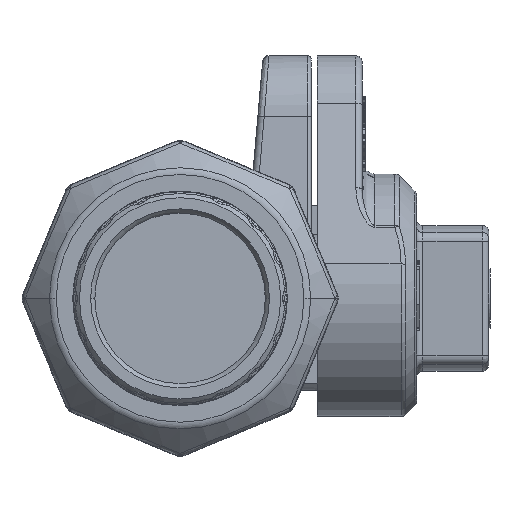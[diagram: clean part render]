
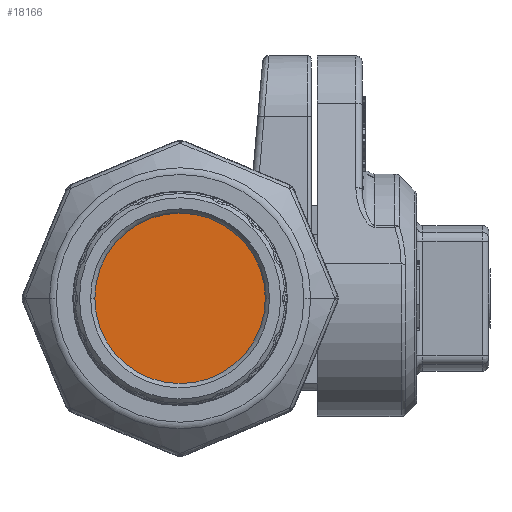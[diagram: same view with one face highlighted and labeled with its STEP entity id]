
A CAD part, left-side view. The second image highlights one B-rep face of the part: STEP entity #18166.
In plain terms, the highlighted planar face has unit normal (-1, 0, 0) as drawn and (1, 0, 0) by its records, which use the part's own axes.
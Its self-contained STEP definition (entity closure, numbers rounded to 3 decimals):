
#18109=CARTESIAN_POINT('',(31.19,0.,0.));
#18110=DIRECTION('',(1.,0.,0.));
#18111=DIRECTION('',(0.,1.,0.));
#18112=AXIS2_PLACEMENT_3D('',#18109,#18110,#18111);
#18118=CARTESIAN_POINT('',(31.19,0.,0.));
#18119=DIRECTION('',(-1.,0.,0.));
#18120=DIRECTION('',(0.,1.,0.));
#18121=AXIS2_PLACEMENT_3D('',#18118,#18119,#18120);
#18143=CARTESIAN_POINT('',(31.19,13.34,0.));
#18145=VERTEX_POINT('',#18143);
#18147=CARTESIAN_POINT('',(31.19,-13.34,0.));
#18149=VERTEX_POINT('',#18147);
#18155=CARTESIAN_POINT('',(31.19,0.,0.));
#18156=DIRECTION('',(-1.,0.,0.));
#18157=DIRECTION('',(0.,1.,0.));
#18158=AXIS2_PLACEMENT_3D('',#18155,#18156,#18157);
#18159=PLANE('',#18158);
#18161=ORIENTED_EDGE('',*,*,#18160,.F.);
#18163=ORIENTED_EDGE('',*,*,#18162,.T.);
#18164=EDGE_LOOP('',(#18161,#18163));
#18165=FACE_OUTER_BOUND('',#18164,.F.);
#18166=ADVANCED_FACE('',(#18165),#18159,.F.);
#18113=CIRCLE('',#18112,13.34);
#18122=CIRCLE('',#18121,13.34);
#18160=EDGE_CURVE('',#18145,#18149,#18113,.T.);
#18162=EDGE_CURVE('',#18145,#18149,#18122,.T.);
